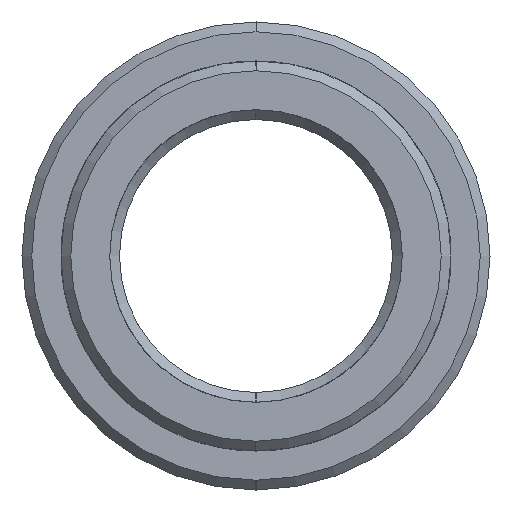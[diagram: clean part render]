
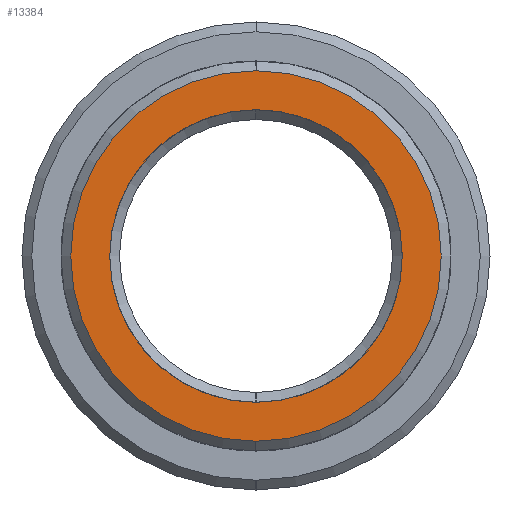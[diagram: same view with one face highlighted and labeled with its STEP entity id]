
A CAD part, left-side view. The second image highlights one B-rep face of the part: STEP entity #13384.
In plain terms, the highlighted planar face has unit normal (1, 0, 0).
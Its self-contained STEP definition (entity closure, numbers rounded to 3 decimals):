
#13307=CARTESIAN_POINT('Axis2P3D Location',(-16.,0.,0.)) ;
#13312=CARTESIAN_POINT('Axis2P3D Location',(-16.,0.,0.)) ;
#13316=CARTESIAN_POINT('Vertex',(-16.,0.,9.5)) ;
#13318=CARTESIAN_POINT('Vertex',(-16.,0.,-9.5)) ;
#13321=CARTESIAN_POINT('Axis2P3D Location',(-16.,0.,0.)) ;
#13331=CARTESIAN_POINT('Control Point',(-16.,0.,7.5)) ;
#13332=CARTESIAN_POINT('Control Point',(-16.,0.805,7.5)) ;
#13333=CARTESIAN_POINT('Control Point',(-16.,1.61,7.392)) ;
#13334=CARTESIAN_POINT('Control Point',(-16.,2.396,7.176)) ;
#13335=CARTESIAN_POINT('Control Point',(-16.,3.89,6.538)) ;
#13336=CARTESIAN_POINT('Control Point',(-16.,5.163,5.53)) ;
#13337=CARTESIAN_POINT('Control Point',(-16.,5.728,4.942)) ;
#13338=CARTESIAN_POINT('Control Point',(-16.,6.686,3.631)) ;
#13339=CARTESIAN_POINT('Control Point',(-16.,7.264,2.113)) ;
#13340=CARTESIAN_POINT('Control Point',(-16.,7.449,1.319)) ;
#13341=CARTESIAN_POINT('Control Point',(-16.,7.602,-0.298)) ;
#13342=CARTESIAN_POINT('Control Point',(-16.,7.323,-1.898)) ;
#13343=CARTESIAN_POINT('Control Point',(-16.,7.077,-2.675)) ;
#13344=CARTESIAN_POINT('Control Point',(-16.,6.381,-4.143)) ;
#13345=CARTESIAN_POINT('Control Point',(-16.,5.323,-5.375)) ;
#13346=CARTESIAN_POINT('Control Point',(-16.,4.714,-5.917)) ;
#13347=CARTESIAN_POINT('Control Point',(-16.,3.464,-6.757)) ;
#13348=CARTESIAN_POINT('Control Point',(-16.,2.05,-7.264)) ;
#13349=CARTESIAN_POINT('Control Point',(-16.,1.375,-7.421)) ;
#13350=CARTESIAN_POINT('Control Point',(-16.,0.687,-7.5)) ;
#13351=CARTESIAN_POINT('Control Point',(-16.,0.,-7.5)) ;
#13352=CARTESIAN_POINT('Vertex',(-16.,0.,7.5)) ;
#13354=CARTESIAN_POINT('Vertex',(-16.,0.,-7.5)) ;
#13358=CARTESIAN_POINT('Control Point',(-16.,0.,-7.5)) ;
#13359=CARTESIAN_POINT('Control Point',(-16.,-0.805,-7.5)) ;
#13360=CARTESIAN_POINT('Control Point',(-16.,-1.61,-7.392)) ;
#13361=CARTESIAN_POINT('Control Point',(-16.,-2.396,-7.176)) ;
#13362=CARTESIAN_POINT('Control Point',(-16.,-3.89,-6.538)) ;
#13363=CARTESIAN_POINT('Control Point',(-16.,-5.163,-5.53)) ;
#13364=CARTESIAN_POINT('Control Point',(-16.,-5.728,-4.942)) ;
#13365=CARTESIAN_POINT('Control Point',(-16.,-6.686,-3.631)) ;
#13366=CARTESIAN_POINT('Control Point',(-16.,-7.264,-2.113)) ;
#13367=CARTESIAN_POINT('Control Point',(-16.,-7.449,-1.319)) ;
#13368=CARTESIAN_POINT('Control Point',(-16.,-7.602,0.298)) ;
#13369=CARTESIAN_POINT('Control Point',(-16.,-7.323,1.898)) ;
#13370=CARTESIAN_POINT('Control Point',(-16.,-7.077,2.675)) ;
#13371=CARTESIAN_POINT('Control Point',(-16.,-6.381,4.143)) ;
#13372=CARTESIAN_POINT('Control Point',(-16.,-5.323,5.375)) ;
#13373=CARTESIAN_POINT('Control Point',(-16.,-4.714,5.917)) ;
#13374=CARTESIAN_POINT('Control Point',(-16.,-3.464,6.757)) ;
#13375=CARTESIAN_POINT('Control Point',(-16.,-2.05,7.264)) ;
#13376=CARTESIAN_POINT('Control Point',(-16.,-1.375,7.421)) ;
#13377=CARTESIAN_POINT('Control Point',(-16.,-0.687,7.5)) ;
#13378=CARTESIAN_POINT('Control Point',(-16.,0.,7.5)) ;
#13308=DIRECTION('Axis2P3D Direction',(1.,0.,0.)) ;
#13309=DIRECTION('Axis2P3D XDirection',(0.,1.,0.)) ;
#13313=DIRECTION('Axis2P3D Direction',(1.,0.,0.)) ;
#13322=DIRECTION('Axis2P3D Direction',(1.,0.,0.)) ;
#13310=AXIS2_PLACEMENT_3D('Plane Axis2P3D',#13307,#13308,#13309) ;
#13314=AXIS2_PLACEMENT_3D('Circle Axis2P3D',#13312,#13313,$) ;
#13323=AXIS2_PLACEMENT_3D('Circle Axis2P3D',#13321,#13322,$) ;
#13327=ORIENTED_EDGE('',*,*,#13320,.T.) ;
#13328=ORIENTED_EDGE('',*,*,#13325,.T.) ;
#13381=ORIENTED_EDGE('',*,*,#13356,.T.) ;
#13382=ORIENTED_EDGE('',*,*,#13379,.T.) ;
#13383=FACE_BOUND('',#13380,.T.) ;
#13384=ADVANCED_FACE('MANIFOLD_SOLID_BREP #8525',(#13329,#13383),#13311,.T.) ;
#13330=B_SPLINE_CURVE_WITH_KNOTS('',5,(#13331,#13332,#13333,#13334,#13335,#13336,#13337,#13338,#13339,#13340,#13341,#13342,#13343,#13344,#13345,#13346,#13347,#13348,#13349,#13350,#13351),.UNSPECIFIED.,.F.,.U.,(6,3,3,3,3,3,6),(0.,5.692,11.384,17.076,22.768,28.46,33.321),.UNSPECIFIED.) ;
#13357=B_SPLINE_CURVE_WITH_KNOTS('',5,(#13358,#13359,#13360,#13361,#13362,#13363,#13364,#13365,#13366,#13367,#13368,#13369,#13370,#13371,#13372,#13373,#13374,#13375,#13376,#13377,#13378),.UNSPECIFIED.,.F.,.U.,(6,3,3,3,3,3,6),(0.,5.692,11.384,17.076,22.768,28.46,33.321),.UNSPECIFIED.) ;
#13315=CIRCLE('generated circle',#13314,9.5) ;
#13324=CIRCLE('generated circle',#13323,9.5) ;
#13320=EDGE_CURVE('',#13317,#13319,#13315,.T.) ;
#13325=EDGE_CURVE('',#13319,#13317,#13324,.T.) ;
#13356=EDGE_CURVE('',#13353,#13355,#13330,.T.) ;
#13379=EDGE_CURVE('',#13355,#13353,#13357,.T.) ;
#13326=EDGE_LOOP('',(#13327,#13328)) ;
#13380=EDGE_LOOP('',(#13381,#13382)) ;
#13329=FACE_OUTER_BOUND('',#13326,.T.) ;
#13311=PLANE('Plane',#13310) ;
#13317=VERTEX_POINT('',#13316) ;
#13319=VERTEX_POINT('',#13318) ;
#13353=VERTEX_POINT('',#13352) ;
#13355=VERTEX_POINT('',#13354) ;
